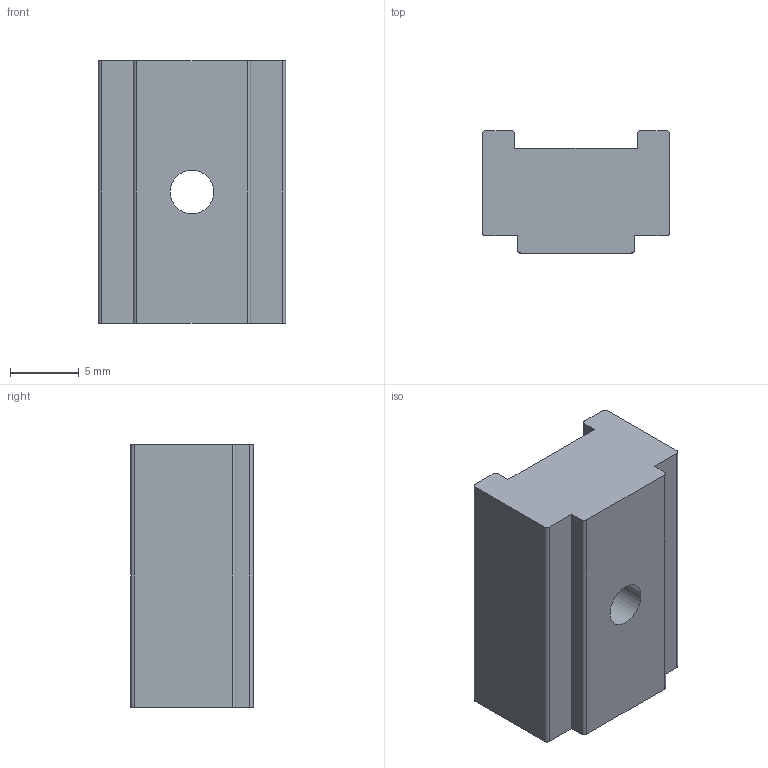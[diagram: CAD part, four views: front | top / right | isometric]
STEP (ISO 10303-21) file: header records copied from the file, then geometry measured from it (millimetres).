
FILE_DESCRIPTION(/* description */ ('Alibre Inc.'),/* implementation_level */ '2;1');
FILE_NAME(/* name */ 'export-463B77D1-4663-45D1-9FFA-5DCA461F5E73',/* time_stamp */ '2020-09-21T23:19:53-07:00',/* author */ (''),/* organization */ (''),/* preprocessor_version */ 'ST-DEVELOPER v17',/* originating_system */ 'Alibre',/* authorisation */ '');
FILE_SCHEMA (('AUTOMOTIVE_DESIGN'));
Length unit declared in the file: millimetre
Bounding box: 13.59 x 8.89 x 19.05 mm (x, y, z)
Volume: 1900.9 mm3; surface area: 1154.3 mm2
Topology: 1 solids, 1 shells, 23 faces, 63 edges, 42 vertices
Faces by surface type: plane 14, cylinder 9
Full cylindrical faces by diameter (mm): 3.175 x1
Entity records: 735 total; most frequent: CARTESIAN_POINT 127, ORIENTED_EDGE 124, DIRECTION 112, EDGE_CURVE 62, VECTOR 44, LINE 44, VERTEX_POINT 42, AXIS2_PLACEMENT_3D 41
